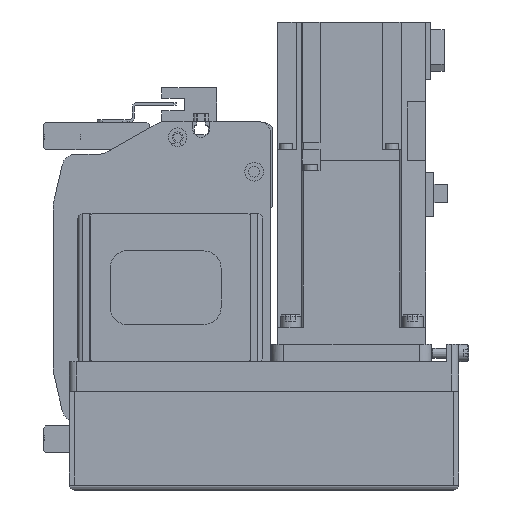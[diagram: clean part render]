
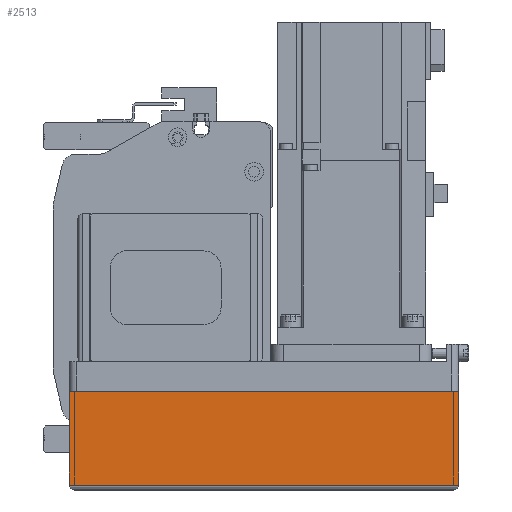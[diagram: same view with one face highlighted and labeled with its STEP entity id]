
A CAD part, left-side view. The second image highlights one B-rep face of the part: STEP entity #2513.
In plain terms, the highlighted planar face has unit normal (-1, 0, 0) as drawn and (0, 1, 0) by its records, which use the part's own axes.
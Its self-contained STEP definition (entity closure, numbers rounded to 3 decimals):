
#2513 = ADVANCED_FACE( '', ( #5515 ), #5516, .T. );
#5515 = FACE_OUTER_BOUND( '', #9019, .T. );
#5516 = PLANE( '', #9020 );
#9019 = EDGE_LOOP( '', ( #16017, #16018, #16019, #16020 ) );
#9020 = AXIS2_PLACEMENT_3D( '', #16021, #16022, #16023 );
#16017 = ORIENTED_EDGE( '', *, *, #22514, .F. );
#16018 = ORIENTED_EDGE( '', *, *, #22515, .F. );
#16019 = ORIENTED_EDGE( '', *, *, #22101, .T. );
#16020 = ORIENTED_EDGE( '', *, *, #19918, .T. );
#16021 = CARTESIAN_POINT( '', ( -158., 39., -50. ) );
#16022 = DIRECTION( '', ( 0., 1., 0. ) );
#16023 = DIRECTION( '', ( 0., 0., 1. ) );
#19918 = EDGE_CURVE( '', #23690, #23688, #23691, .T. );
#22101 = EDGE_CURVE( '', #27211, #23690, #27212, .T. );
#22514 = EDGE_CURVE( '', #23625, #23688, #27779, .T. );
#22515 = EDGE_CURVE( '', #27211, #23625, #27780, .T. );
#23625 = VERTEX_POINT( '', #29233 );
#23688 = VERTEX_POINT( '', #29385 );
#23690 = VERTEX_POINT( '', #29388 );
#23691 = LINE( '', #29389, #29390 );
#27211 = VERTEX_POINT( '', #34527 );
#27212 = LINE( '', #34528, #34529 );
#27779 = LINE( '', #35397, #35398 );
#27780 = LINE( '', #35399, #35400 );
#29233 = CARTESIAN_POINT( '', ( 0., 39., -50. ) );
#29385 = CARTESIAN_POINT( '', ( 0., 39., -12.1 ) );
#29388 = CARTESIAN_POINT( '', ( -158., 39., -12.1 ) );
#29389 = CARTESIAN_POINT( '', ( -158., 39., -12.1 ) );
#29390 = VECTOR( '', #37209, 1000. );
#34527 = CARTESIAN_POINT( '', ( -158., 39., -50. ) );
#34528 = CARTESIAN_POINT( '', ( -158., 39., -50. ) );
#34529 = VECTOR( '', #39904, 1000. );
#35397 = CARTESIAN_POINT( '', ( 0., 39., -50. ) );
#35398 = VECTOR( '', #40377, 1000. );
#35399 = CARTESIAN_POINT( '', ( -158., 39., -50. ) );
#35400 = VECTOR( '', #40378, 1000. );
#37209 = DIRECTION( '', ( 1., 0., 0. ) );
#39904 = DIRECTION( '', ( 0., 0., 1. ) );
#40377 = DIRECTION( '', ( 0., 0., 1. ) );
#40378 = DIRECTION( '', ( 1., 0., 0. ) );
